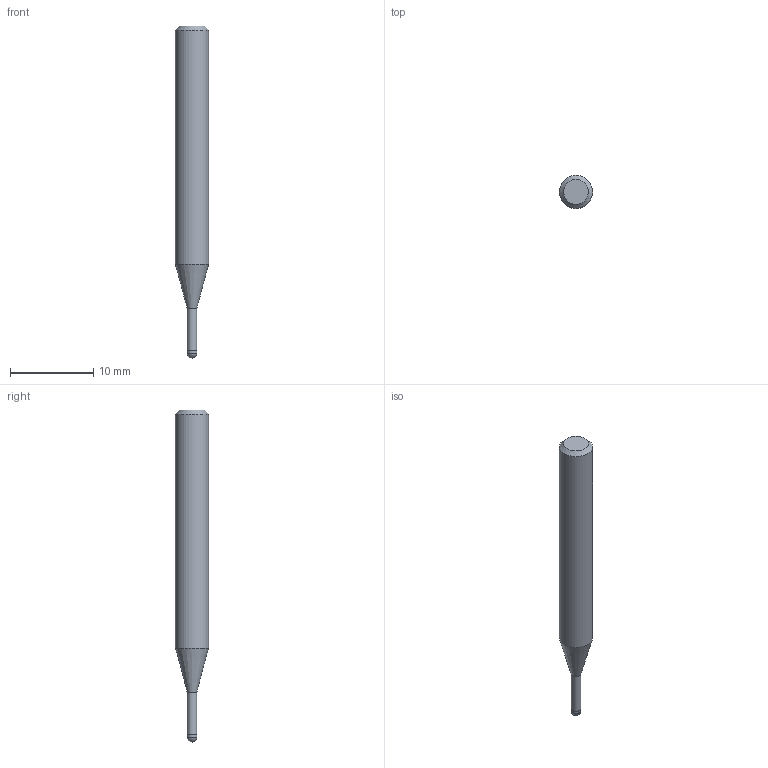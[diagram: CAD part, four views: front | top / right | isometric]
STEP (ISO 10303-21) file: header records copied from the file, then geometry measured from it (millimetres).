
FILE_DESCRIPTION((''),'2;1');
FILE_NAME('C:\Users\nsx150\AppData\Local\Temp\Mastercam 2021\QT8KEW0Y7J\TEMP.step','2021-04-23T11:21:14',(''),(''),'STEP Write','Mastercam 2021 ... CNC Software, Inc.','');
FILE_SCHEMA(('AUTOMOTIVE_DESIGN'));
Length unit declared in the file: millimetre
Products named in the file (1): None
Bounding box: 4 x 4 x 40 mm (x, y, z)
Volume: 395.6 mm3; surface area: 437.5 mm2
Topology: 2 solids, 2 shells, 9 faces, 14 edges, 8 vertices
Faces by surface type: plane 3, cylinder 3, cone 2, sphere 1
Full cylindrical faces by diameter (mm): 1.15 x1, 1.2 x1, 4 x1
Entity records: 211 total; most frequent: DIRECTION 36, CARTESIAN_POINT 25, AXIS2_PLACEMENT_3D 18, ORIENTED_EDGE 14, EDGE_LOOP 14, STYLED_ITEM 12, ADVANCED_FACE 9, FACE_BOUND 8
